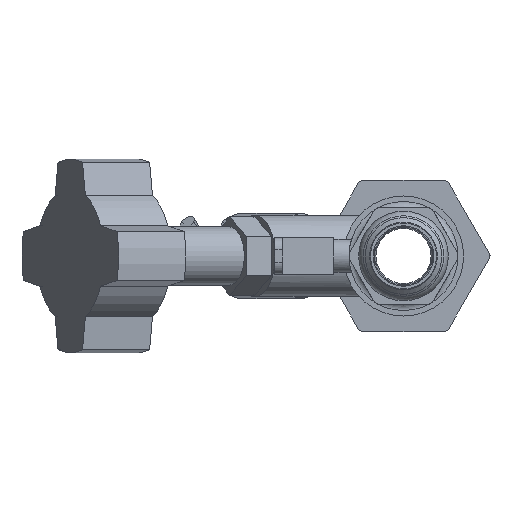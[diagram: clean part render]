
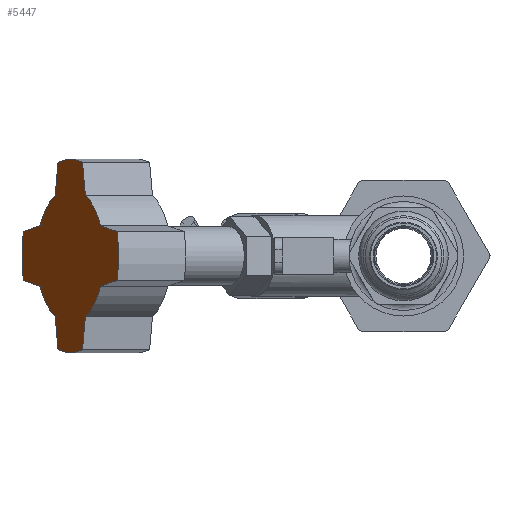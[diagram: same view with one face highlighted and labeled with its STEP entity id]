
A CAD part, left-side view. The second image highlights one B-rep face of the part: STEP entity #5447.
In plain terms, the highlighted planar face has unit normal (-0.5, 0.866, 0) as drawn and (0.5, -0.866, 0) by its records, which use the part's own axes.
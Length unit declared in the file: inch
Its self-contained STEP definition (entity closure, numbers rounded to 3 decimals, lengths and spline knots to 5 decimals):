
#276=PLANE('',#6170);
#536=FACE_OUTER_BOUND('',#847,.T.);
#847=EDGE_LOOP('',(#4496,#4497,#4498,#4499,#4500,#4501,#4502,#4503,#4504,
#4505,#4506,#4507,#4508,#4509,#4510,#4511));
#1229=LINE('',#9197,#1658);
#1233=LINE('',#9204,#1662);
#1236=LINE('',#9212,#1665);
#1240=LINE('',#9221,#1669);
#1244=LINE('',#9233,#1673);
#1248=LINE('',#9245,#1677);
#1252=LINE('',#9254,#1681);
#1256=LINE('',#9263,#1685);
#1658=VECTOR('',#7492,0.3937);
#1662=VECTOR('',#7498,0.3937);
#1665=VECTOR('',#7503,0.3937);
#1669=VECTOR('',#7509,0.3937);
#1673=VECTOR('',#7521,0.3937);
#1677=VECTOR('',#7533,0.3937);
#1681=VECTOR('',#7539,0.3937);
#1685=VECTOR('',#7545,0.3937);
#2023=CIRCLE('',#6143,0.7);
#2025=CIRCLE('',#6150,0.7);
#2027=CIRCLE('',#6154,0.7);
#2029=CIRCLE('',#6160,0.7);
#2031=CIRCLE('',#6163,1.);
#2033=CIRCLE('',#6166,1.);
#2035=CIRCLE('',#6169,1.);
#2036=CIRCLE('',#6171,1.);
#2470=VERTEX_POINT('',#9188);
#2471=VERTEX_POINT('',#9190);
#2473=VERTEX_POINT('',#9196);
#2475=VERTEX_POINT('',#9202);
#2478=VERTEX_POINT('',#9209);
#2479=VERTEX_POINT('',#9211);
#2482=VERTEX_POINT('',#9218);
#2483=VERTEX_POINT('',#9220);
#2486=VERTEX_POINT('',#9230);
#2487=VERTEX_POINT('',#9232);
#2489=VERTEX_POINT('',#9238);
#2491=VERTEX_POINT('',#9244);
#2494=VERTEX_POINT('',#9251);
#2495=VERTEX_POINT('',#9253);
#2498=VERTEX_POINT('',#9260);
#2499=VERTEX_POINT('',#9262);
#3149=EDGE_CURVE('',#2471,#2470,#2023,.T.);
#3152=EDGE_CURVE('',#2473,#2471,#1229,.T.);
#3156=EDGE_CURVE('',#2470,#2475,#1233,.T.);
#3159=EDGE_CURVE('',#2479,#2478,#1236,.T.);
#3163=EDGE_CURVE('',#2483,#2482,#1240,.T.);
#3166=EDGE_CURVE('',#2482,#2479,#2025,.T.);
#3169=EDGE_CURVE('',#2487,#2486,#1244,.T.);
#3172=EDGE_CURVE('',#2489,#2487,#2027,.T.);
#3175=EDGE_CURVE('',#2491,#2489,#1248,.T.);
#3179=EDGE_CURVE('',#2495,#2494,#1252,.T.);
#3183=EDGE_CURVE('',#2499,#2498,#1256,.T.);
#3186=EDGE_CURVE('',#2498,#2495,#2029,.T.);
#3188=EDGE_CURVE('',#2499,#2486,#2031,.T.);
#3190=EDGE_CURVE('',#2483,#2475,#2033,.T.);
#3192=EDGE_CURVE('',#2491,#2478,#2035,.T.);
#3193=EDGE_CURVE('',#2473,#2494,#2036,.T.);
#4496=ORIENTED_EDGE('',*,*,#3152,.T.);
#4497=ORIENTED_EDGE('',*,*,#3149,.T.);
#4498=ORIENTED_EDGE('',*,*,#3156,.T.);
#4499=ORIENTED_EDGE('',*,*,#3190,.F.);
#4500=ORIENTED_EDGE('',*,*,#3163,.T.);
#4501=ORIENTED_EDGE('',*,*,#3166,.T.);
#4502=ORIENTED_EDGE('',*,*,#3159,.T.);
#4503=ORIENTED_EDGE('',*,*,#3192,.F.);
#4504=ORIENTED_EDGE('',*,*,#3175,.T.);
#4505=ORIENTED_EDGE('',*,*,#3172,.T.);
#4506=ORIENTED_EDGE('',*,*,#3169,.T.);
#4507=ORIENTED_EDGE('',*,*,#3188,.F.);
#4508=ORIENTED_EDGE('',*,*,#3183,.T.);
#4509=ORIENTED_EDGE('',*,*,#3186,.T.);
#4510=ORIENTED_EDGE('',*,*,#3179,.T.);
#4511=ORIENTED_EDGE('',*,*,#3193,.F.);
#5447=ADVANCED_FACE('',(#536),#276,.T.);
#6143=AXIS2_PLACEMENT_3D('',#9191,#7486,#7487);
#6150=AXIS2_PLACEMENT_3D('',#9225,#7515,#7516);
#6154=AXIS2_PLACEMENT_3D('',#9239,#7527,#7528);
#6160=AXIS2_PLACEMENT_3D('',#9267,#7551,#7552);
#6163=AXIS2_PLACEMENT_3D('',#9270,#7557,#7558);
#6166=AXIS2_PLACEMENT_3D('',#9273,#7563,#7564);
#6169=AXIS2_PLACEMENT_3D('',#9276,#7569,#7570);
#6170=AXIS2_PLACEMENT_3D('',#9277,#7571,#7572);
#6171=AXIS2_PLACEMENT_3D('',#9278,#7573,#7574);
#7486=DIRECTION('center_axis',(0.5,-0.866,0.));
#7487=DIRECTION('ref_axis',(-0.775,-0.447,-0.446));
#7492=DIRECTION('',(0.853,0.492,-0.174));
#7498=DIRECTION('',(0.15,0.087,-0.985));
#7503=DIRECTION('',(0.853,0.492,0.174));
#7509=DIRECTION('',(0.15,0.087,0.985));
#7515=DIRECTION('center_axis',(0.5,-0.866,0.));
#7516=DIRECTION('ref_axis',(0.387,0.223,-0.895));
#7521=DIRECTION('',(-0.15,-0.087,0.985));
#7527=DIRECTION('center_axis',(0.5,-0.866,0.));
#7528=DIRECTION('ref_axis',(-0.775,-0.447,-0.446));
#7533=DIRECTION('',(-0.853,-0.492,0.174));
#7539=DIRECTION('',(-0.853,-0.492,-0.174));
#7545=DIRECTION('',(-0.15,-0.087,-0.985));
#7551=DIRECTION('center_axis',(0.5,-0.866,0.));
#7552=DIRECTION('ref_axis',(-0.387,-0.223,0.895));
#7557=DIRECTION('center_axis',(-0.5,0.866,0.));
#7558=DIRECTION('ref_axis',(0.866,0.5,0.));
#7563=DIRECTION('center_axis',(-0.5,0.866,0.));
#7564=DIRECTION('ref_axis',(0.866,0.5,0.));
#7569=DIRECTION('center_axis',(-0.5,0.866,0.));
#7570=DIRECTION('ref_axis',(0.866,0.5,0.));
#7571=DIRECTION('center_axis',(0.5,-0.866,0.));
#7572=DIRECTION('ref_axis',(0.,0.,-1.));
#7573=DIRECTION('center_axis',(-0.5,0.866,0.));
#7574=DIRECTION('ref_axis',(0.866,0.5,0.));
#9188=CARTESIAN_POINT('',(1.71545,-3.59625,-0.62637));
#9190=CARTESIAN_POINT('',(1.44363,-3.75319,-0.3125));
#9191=CARTESIAN_POINT('Origin',(1.98608,-3.44,0.));
#9196=CARTESIAN_POINT('',(1.14808,-3.92382,-0.25233));
#9197=CARTESIAN_POINT('',(1.11581,-3.94245,-0.24575));
#9202=CARTESIAN_POINT('',(1.76757,-3.56616,-0.96764));
#9204=CARTESIAN_POINT('',(1.66009,-3.62821,-0.26385));
#9209=CARTESIAN_POINT('',(2.82409,-2.95618,-0.25233));
#9211=CARTESIAN_POINT('',(2.52854,-3.12681,-0.3125));
#9212=CARTESIAN_POINT('',(1.86868,-3.50779,-0.44685));
#9218=CARTESIAN_POINT('',(2.25672,-3.28375,-0.62637));
#9220=CARTESIAN_POINT('',(2.2046,-3.31384,-0.96764));
#9221=CARTESIAN_POINT('',(2.25991,-3.28191,-0.60549));
#9225=CARTESIAN_POINT('Origin',(1.98608,-3.44,0.));
#9230=CARTESIAN_POINT('',(2.2046,-3.31384,0.96764));
#9232=CARTESIAN_POINT('',(2.25672,-3.28375,0.62637));
#9233=CARTESIAN_POINT('',(2.28596,-3.26687,0.43486));
#9238=CARTESIAN_POINT('',(2.52854,-3.12681,0.3125));
#9239=CARTESIAN_POINT('Origin',(1.98608,-3.44,0.));
#9244=CARTESIAN_POINT('',(2.82409,-2.95618,0.25233));
#9245=CARTESIAN_POINT('',(2.01645,-3.42247,0.41676));
#9251=CARTESIAN_POINT('',(1.14808,-3.92382,0.25233));
#9253=CARTESIAN_POINT('',(1.44363,-3.75319,0.3125));
#9254=CARTESIAN_POINT('',(1.26358,-3.85714,0.27584));
#9260=CARTESIAN_POINT('',(1.71545,-3.59625,0.62637));
#9262=CARTESIAN_POINT('',(1.76757,-3.56616,0.96764));
#9263=CARTESIAN_POINT('',(1.68615,-3.61317,0.43448));
#9267=CARTESIAN_POINT('Origin',(1.98608,-3.44,0.));
#9270=CARTESIAN_POINT('Origin',(1.98608,-3.44,0.));
#9273=CARTESIAN_POINT('Origin',(1.98608,-3.44,0.));
#9276=CARTESIAN_POINT('Origin',(1.98608,-3.44,0.));
#9277=CARTESIAN_POINT('Origin',(1.12006,-3.94,0.));
#9278=CARTESIAN_POINT('Origin',(1.98608,-3.44,0.));
